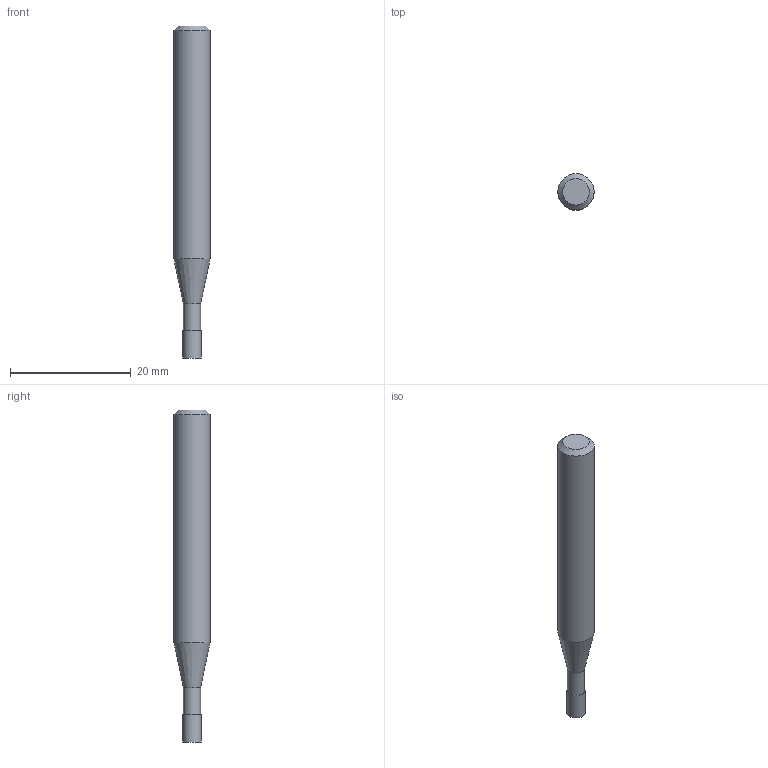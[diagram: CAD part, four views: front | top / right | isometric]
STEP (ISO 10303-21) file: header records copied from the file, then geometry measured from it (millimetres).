
FILE_DESCRIPTION((''),'2;1');
FILE_NAME('C:\Users\nsx150\AppData\Local\Temp\Mastercam 2021\EUJSUNXURU\TEMP.step','2021-04-22T10:35:26',(''),(''),'STEP Write','Mastercam 2021 ... CNC Software, Inc.','');
FILE_SCHEMA(('AUTOMOTIVE_DESIGN'));
Length unit declared in the file: millimetre
Products named in the file (1): None
Bounding box: 6 x 6 x 55 mm (x, y, z)
Volume: 1264.9 mm3; surface area: 954.5 mm2
Topology: 2 solids, 2 shells, 9 faces, 12 edges, 7 vertices
Faces by surface type: plane 4, cylinder 3, cone 2
Full cylindrical faces by diameter (mm): 2.85 x1, 3 x1, 6 x1
Entity records: 211 total; most frequent: DIRECTION 36, CARTESIAN_POINT 25, AXIS2_PLACEMENT_3D 18, ORIENTED_EDGE 14, EDGE_LOOP 14, STYLED_ITEM 12, ADVANCED_FACE 9, FACE_BOUND 8
